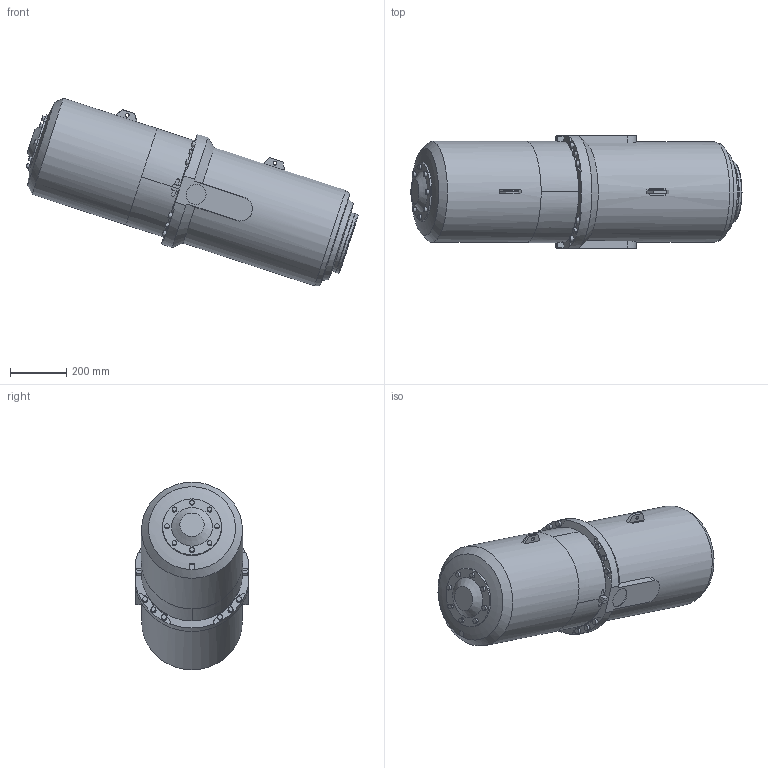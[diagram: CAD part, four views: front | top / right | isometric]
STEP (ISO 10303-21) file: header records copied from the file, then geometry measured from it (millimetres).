
FILE_DESCRIPTION (( 'STEP AP214' ), '1' );
FILE_NAME ('IRB6750S_All_OC_00_CYL_CAD.step', '2026-05-13T05:29:15', ( '' ), ( '' ), 'SwSTEP 2.0', 'SolidWorks 2024', '' );
FILE_SCHEMA (( 'AUTOMOTIVE_DESIGN' ));
Length unit declared in the file: millimetre
Products named in the file (1): IRB6750S_All_OC_00_CYL_CAD
Bounding box: 1181.87 x 400 x 668.07 mm (x, y, z)
Volume: 113562670.8 mm3; surface area: 1778014.5 mm2
Topology: 1 solids, 1 shells, 157 faces, 415 edges, 289 vertices
Faces by surface type: plane 74, cylinder 48, cone 26, bspline 6, torus 3
Full cylindrical faces by diameter (mm): 4.2 x4, 13 x2, 16.27 x8, 18.27 x8, 60 x1, 71 x2, 94 x1, 218 x1, 220 x1, 358 x1, 360 x1
Entity records: 8479 total; most frequent: CARTESIAN_POINT 3378, ORIENTED_EDGE 658, DIRECTION 618, EDGE_CURVE 329, AXIS2_PLACEMENT_3D 263, VERTEX_POINT 256, EDGE_LOOP 251, FACE_OUTER_BOUND 190
